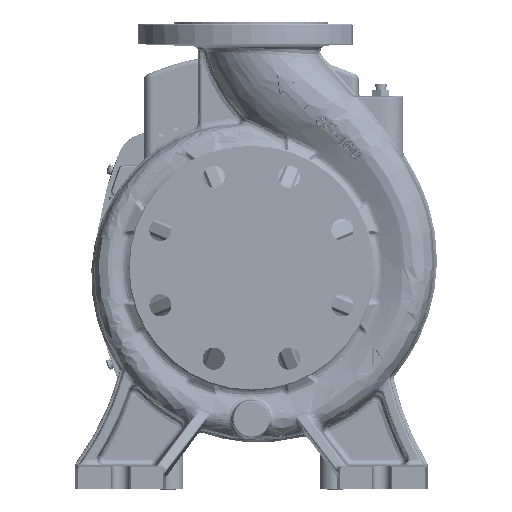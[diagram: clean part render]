
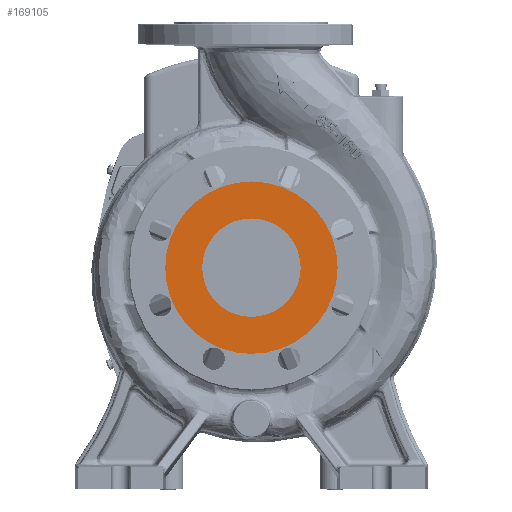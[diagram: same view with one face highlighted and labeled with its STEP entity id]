
A CAD part, left-side view. The second image highlights one B-rep face of the part: STEP entity #169105.
In plain terms, the highlighted planar face has unit normal (-1, 0, 0).
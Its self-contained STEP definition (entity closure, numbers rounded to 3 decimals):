
#3455 = EDGE_CURVE ( 'NONE', #209156, #214312, #272652, .T. ) ;
#22082 = DIRECTION ( 'NONE',  ( 0., 1., 0. ) ) ;
#22522 = FACE_OUTER_BOUND ( 'NONE', #211268, .T. ) ;
#33558 = EDGE_CURVE ( 'NONE', #214312, #209156, #264872, .T. ) ;
#37435 = AXIS2_PLACEMENT_3D ( 'NONE', #92078, #184386, #48225 ) ;
#38712 = CARTESIAN_POINT ( 'NONE',  ( -237.5, 0., 0. ) ) ;
#46338 = CIRCLE ( 'NONE', #215354, 40. ) ;
#48225 = DIRECTION ( 'NONE',  ( 0., 0., 1. ) ) ;
#69243 = DIRECTION ( 'NONE',  ( 0., 1., 0. ) ) ;
#70209 = ORIENTED_EDGE ( 'NONE', *, *, #94605, .T. ) ;
#77020 = VERTEX_POINT ( 'NONE', #242242 ) ;
#84316 = EDGE_CURVE ( 'NONE', #77020, #292267, #46338, .T. ) ;
#91763 = ORIENTED_EDGE ( 'NONE', *, *, #3455, .F. ) ;
#92078 = CARTESIAN_POINT ( 'NONE',  ( -237.5, 0., 0. ) ) ;
#94605 = EDGE_CURVE ( 'NONE', #292267, #77020, #109396, .T. ) ;
#100115 = CARTESIAN_POINT ( 'NONE',  ( -237.5, 70., 0. ) ) ;
#103840 = ORIENTED_EDGE ( 'NONE', *, *, #84316, .T. ) ;
#109396 = CIRCLE ( 'NONE', #186753, 40. ) ;
#114793 = FACE_BOUND ( 'NONE', #233325, .T. ) ;
#157792 = DIRECTION ( 'NONE',  ( 1., 0., 0. ) ) ;
#161520 = AXIS2_PLACEMENT_3D ( 'NONE', #38712, #176417, #203531 ) ;
#164507 = DIRECTION ( 'NONE',  ( 1., 0., 0. ) ) ;
#169105 = ADVANCED_FACE ( 'NONE', ( #22522, #114793 ), #299339, .T. ) ;
#175005 = CARTESIAN_POINT ( 'NONE',  ( -237.5, 0., 0. ) ) ;
#176417 = DIRECTION ( 'NONE',  ( 1., 0., 0. ) ) ;
#178144 = AXIS2_PLACEMENT_3D ( 'NONE', #224265, #157792, #249958 ) ;
#184386 = DIRECTION ( 'NONE',  ( -1., 0., 0. ) ) ;
#186753 = AXIS2_PLACEMENT_3D ( 'NONE', #175005, #200656, #22082 ) ;
#200656 = DIRECTION ( 'NONE',  ( 1., 0., 0. ) ) ;
#203531 = DIRECTION ( 'NONE',  ( 0., 1., 0. ) ) ;
#209156 = VERTEX_POINT ( 'NONE', #230026 ) ;
#211268 = EDGE_LOOP ( 'NONE', ( #282923, #91763 ) ) ;
#214312 = VERTEX_POINT ( 'NONE', #100115 ) ;
#215354 = AXIS2_PLACEMENT_3D ( 'NONE', #276406, #164507, #69243 ) ;
#224265 = CARTESIAN_POINT ( 'NONE',  ( -237.5, 0., 0. ) ) ;
#230026 = CARTESIAN_POINT ( 'NONE',  ( -237.5, -70., 0. ) ) ;
#233325 = EDGE_LOOP ( 'NONE', ( #103840, #70209 ) ) ;
#242242 = CARTESIAN_POINT ( 'NONE',  ( -237.5, 40., 0. ) ) ;
#249958 = DIRECTION ( 'NONE',  ( 0., 1., 0. ) ) ;
#264872 = CIRCLE ( 'NONE', #178144, 70. ) ;
#267498 = CARTESIAN_POINT ( 'NONE',  ( -237.5, -40., 0. ) ) ;
#272652 = CIRCLE ( 'NONE', #161520, 70. ) ;
#276406 = CARTESIAN_POINT ( 'NONE',  ( -237.5, 0., 0. ) ) ;
#282923 = ORIENTED_EDGE ( 'NONE', *, *, #33558, .F. ) ;
#292267 = VERTEX_POINT ( 'NONE', #267498 ) ;
#299339 = PLANE ( 'NONE',  #37435 ) ;
